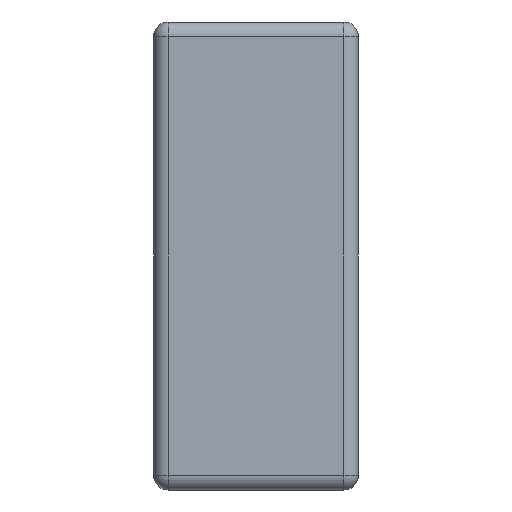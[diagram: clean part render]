
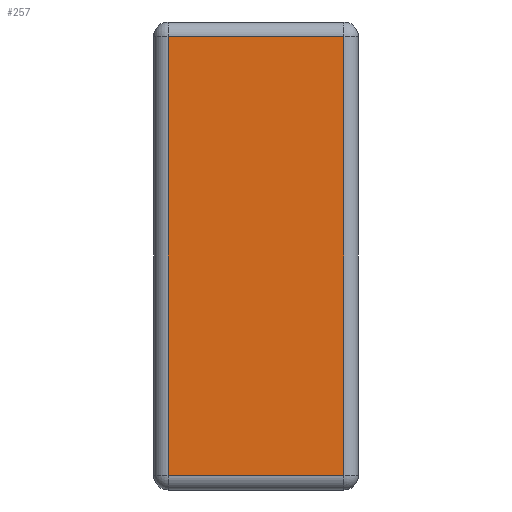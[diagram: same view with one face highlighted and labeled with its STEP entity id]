
A CAD part, left-side view. The second image highlights one B-rep face of the part: STEP entity #257.
In plain terms, the highlighted planar face has unit normal (-1, 0, 0).
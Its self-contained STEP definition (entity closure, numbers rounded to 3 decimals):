
#17 = CARTESIAN_POINT ( 'NONE',  ( -1.6, 0.65, 0.75 ) ) ;
#18 = VERTEX_POINT ( 'NONE', #17 ) ;
#26 = CARTESIAN_POINT ( 'NONE',  ( -1.6, 0.05, 0.75 ) ) ;
#27 = VERTEX_POINT ( 'NONE', #26 ) ;
#28 = CARTESIAN_POINT ( 'NONE',  ( -1.6, 0.7, 0.75 ) ) ;
#29 = DIRECTION ( 'NONE',  ( 0., 1., 0. ) ) ;
#30 = VECTOR ( 'NONE', #29, 1000. ) ;
#31 = LINE ( 'NONE', #28, #30 ) ;
#32 = EDGE_CURVE ( 'NONE', #27, #18, #31, .T. ) ;
#57 = CARTESIAN_POINT ( 'NONE',  ( -1.6, 0.65, -0.75 ) ) ;
#58 = VERTEX_POINT ( 'NONE', #57 ) ;
#76 = CARTESIAN_POINT ( 'NONE',  ( -1.6, 0.05, -0.75 ) ) ;
#77 = VERTEX_POINT ( 'NONE', #76 ) ;
#85 = CARTESIAN_POINT ( 'NONE',  ( -1.6, 0., -0.75 ) ) ;
#86 = DIRECTION ( 'NONE',  ( 0., -1., 0. ) ) ;
#87 = VECTOR ( 'NONE', #86, 1000. ) ;
#88 = LINE ( 'NONE', #85, #87 ) ;
#89 = EDGE_CURVE ( 'NONE', #58, #77, #88, .T. ) ;
#179 = CARTESIAN_POINT ( 'NONE',  ( -1.6, 0.65, -0.8 ) ) ;
#180 = DIRECTION ( 'NONE',  ( 0., 0., -1. ) ) ;
#181 = VECTOR ( 'NONE', #180, 1000. ) ;
#182 = LINE ( 'NONE', #179, #181 ) ;
#183 = EDGE_CURVE ( 'NONE', #18, #58, #182, .T. ) ;
#241 = ORIENTED_EDGE ( 'NONE', *, *, #183, .T. ) ;
#242 = ORIENTED_EDGE ( 'NONE', *, *, #89, .T. ) ;
#243 = CARTESIAN_POINT ( 'NONE',  ( -1.6, 0.05, 0.8 ) ) ;
#244 = DIRECTION ( 'NONE',  ( 0., 0., 1. ) ) ;
#245 = VECTOR ( 'NONE', #244, 1000. ) ;
#246 = LINE ( 'NONE', #243, #245 ) ;
#247 = EDGE_CURVE ( 'NONE', #77, #27, #246, .T. ) ;
#248 = ORIENTED_EDGE ( 'NONE', *, *, #247, .T. ) ;
#249 = ORIENTED_EDGE ( 'NONE', *, *, #32, .T. ) ;
#250 = EDGE_LOOP ( 'NONE', ( #241, #242, #248, #249 ) ) ;
#251 = FACE_OUTER_BOUND ( 'NONE', #250, .T. ) ;
#252 = CARTESIAN_POINT ( 'NONE',  ( -1.6, 0., 0. ) ) ;
#253 = DIRECTION ( 'NONE',  ( -1., 0., 0. ) ) ;
#254 = DIRECTION ( 'NONE',  ( 0., 0., 1. ) ) ;
#255 = AXIS2_PLACEMENT_3D ( 'NONE', #252, #253, #254 ) ;
#256 = PLANE ( 'NONE', #255 ) ;
#257 = ADVANCED_FACE ( 'NONE', ( #251 ), #256, .T. ) ;
